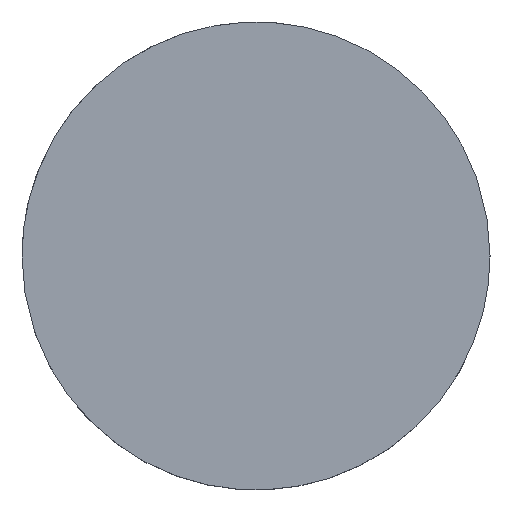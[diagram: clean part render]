
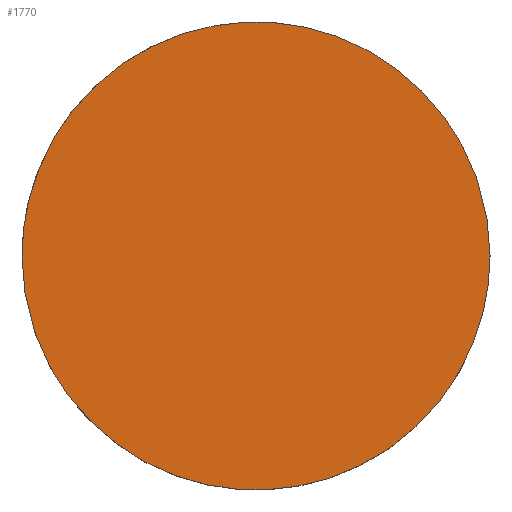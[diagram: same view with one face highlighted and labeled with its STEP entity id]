
A CAD part, top view. The second image highlights one B-rep face of the part: STEP entity #1770.
In plain terms, the highlighted planar face has unit normal (0, 0, 1).
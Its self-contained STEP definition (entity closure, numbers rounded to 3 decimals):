
#190 = CARTESIAN_POINT ('', (-12.7, 0., 0.));
#200 = VERTEX_POINT ('', #190);
#260 = CARTESIAN_POINT ('', (12.7, 0., 0.));
#270 = VERTEX_POINT ('', #260);
#280 = CARTESIAN_POINT ('', (12.7, 0., 0.));
#290 = CARTESIAN_POINT ('', (12.7, 12.7, 0.));
#300 = CARTESIAN_POINT ('', (0., 12.7, 0.));
#310 = CARTESIAN_POINT ('', (-12.7, 12.7, 0.));
#320 = CARTESIAN_POINT ('', (-12.7, 0., 0.));
#330 = (
   BOUNDED_CURVE ()
   B_SPLINE_CURVE (2, (#280, #290, #300, #310, #320), .UNSPECIFIED., .F., .U.)
   B_SPLINE_CURVE_WITH_KNOTS ((3, 2, 3), (0., 1.571, 3.142), .UNSPECIFIED.)
   CURVE ()
   GEOMETRIC_REPRESENTATION_ITEM ()
   RATIONAL_B_SPLINE_CURVE ((1., 0.707, 1., 0.707, 1.))
   REPRESENTATION_ITEM ('')
);
#340 = EDGE_CURVE ('', #270, #200, #330, .T.);
#580 = CARTESIAN_POINT ('', (-12.7, 0., 0.));
#590 = CARTESIAN_POINT ('', (-12.7, -12.7, 0.));
#600 = CARTESIAN_POINT ('', (0., -12.7, 0.));
#610 = CARTESIAN_POINT ('', (12.7, -12.7, 0.));
#620 = CARTESIAN_POINT ('', (12.7, 0., 0.));
#630 = (
   BOUNDED_CURVE ()
   B_SPLINE_CURVE (2, (#580, #590, #600, #610, #620), .UNSPECIFIED., .F., .U.)
   B_SPLINE_CURVE_WITH_KNOTS ((3, 2, 3), (3.142, 4.712, 6.283), .UNSPECIFIED.)
   CURVE ()
   GEOMETRIC_REPRESENTATION_ITEM ()
   RATIONAL_B_SPLINE_CURVE ((1., 0.707, 1., 0.707, 1.))
   REPRESENTATION_ITEM ('')
);
#640 = EDGE_CURVE ('', #200, #270, #630, .T.);
#1680 = ORIENTED_EDGE ('', *, *, #340, .T.);
#1690 = ORIENTED_EDGE ('', *, *, #640, .T.);
#1700 = EDGE_LOOP ('', (#1680, #1690));
#1710 = FACE_OUTER_BOUND ('', #1700, .T.);
#1720 = CARTESIAN_POINT ('', (0., 26.112, 0.));
#1730 = DIRECTION ('', (0., 0., 1.));
#1740 = DIRECTION ('', (-0.707, -0.707, 0.));
#1750 = AXIS2_PLACEMENT_3D ('', #1720, #1730, #1740);
#1760 = PLANE ('', #1750);
#1770 = ADVANCED_FACE ('', (#1710), #1760, .T.);
